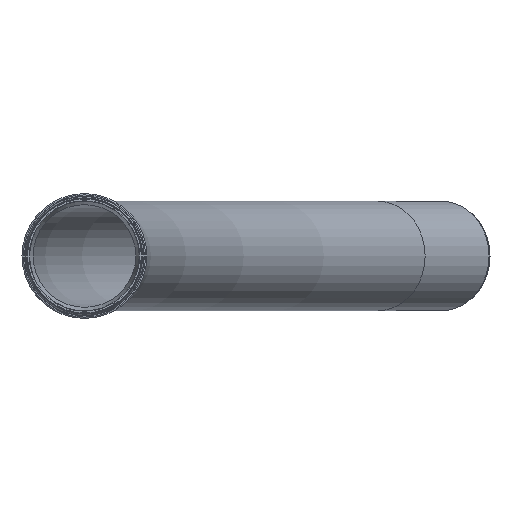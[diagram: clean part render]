
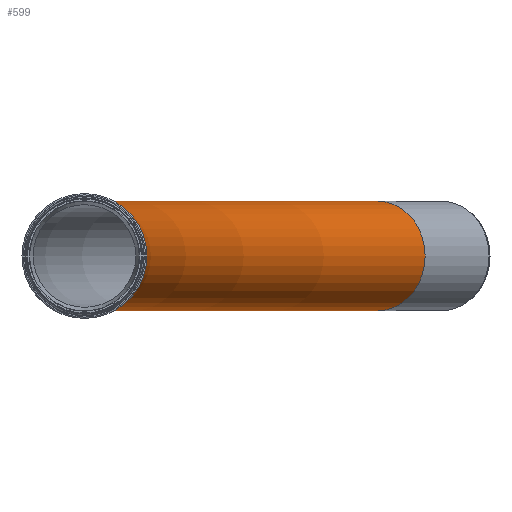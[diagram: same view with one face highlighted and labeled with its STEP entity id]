
A CAD part, left-side view. The second image highlights one B-rep face of the part: STEP entity #599.
In plain terms, the highlighted toroidal (fillet/blend) face has major radius 5000 mm and minor radius 125 mm.
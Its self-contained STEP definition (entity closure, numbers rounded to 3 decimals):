
#26=TOROIDAL_SURFACE('',#668,5000.,125.);
#54=FACE_OUTER_BOUND('',#94,.T.);
#94=EDGE_LOOP('',(#411,#412,#413,#414));
#177=CIRCLE('',#669,125.);
#178=CIRCLE('',#670,4875.);
#179=CIRCLE('',#671,125.);
#252=VERTEX_POINT('',#1042);
#253=VERTEX_POINT('',#1044);
#314=EDGE_CURVE('',#252,#252,#177,.T.);
#315=EDGE_CURVE('',#252,#253,#178,.T.);
#316=EDGE_CURVE('',#253,#253,#179,.T.);
#411=ORIENTED_EDGE('',*,*,#314,.F.);
#412=ORIENTED_EDGE('',*,*,#315,.T.);
#413=ORIENTED_EDGE('',*,*,#316,.F.);
#414=ORIENTED_EDGE('',*,*,#315,.F.);
#599=ADVANCED_FACE('',(#54),#26,.T.);
#668=AXIS2_PLACEMENT_3D('',#1041,#796,#797);
#669=AXIS2_PLACEMENT_3D('',#1043,#798,#799);
#670=AXIS2_PLACEMENT_3D('',#1045,#800,#801);
#671=AXIS2_PLACEMENT_3D('',#1046,#802,#803);
#796=DIRECTION('center_axis',(0.,0.,-1.));
#797=DIRECTION('ref_axis',(-1.,0.,0.));
#798=DIRECTION('center_axis',(0.866,-0.5,0.));
#799=DIRECTION('ref_axis',(0.5,0.866,0.));
#800=DIRECTION('center_axis',(0.,0.,1.));
#801=DIRECTION('ref_axis',(-1.,0.,0.));
#802=DIRECTION('center_axis',(-1.,0.,0.));
#803=DIRECTION('ref_axis',(0.,0.,1.));
#1041=CARTESIAN_POINT('Origin',(453.821,-5000.,0.));
#1042=CARTESIAN_POINT('',(2891.321,-778.126,0.));
#1043=CARTESIAN_POINT('Origin',(2953.821,-669.873,0.));
#1044=CARTESIAN_POINT('',(453.821,-125.,0.));
#1045=CARTESIAN_POINT('Origin',(453.821,-5000.,0.));
#1046=CARTESIAN_POINT('Origin',(453.821,0.,0.));
